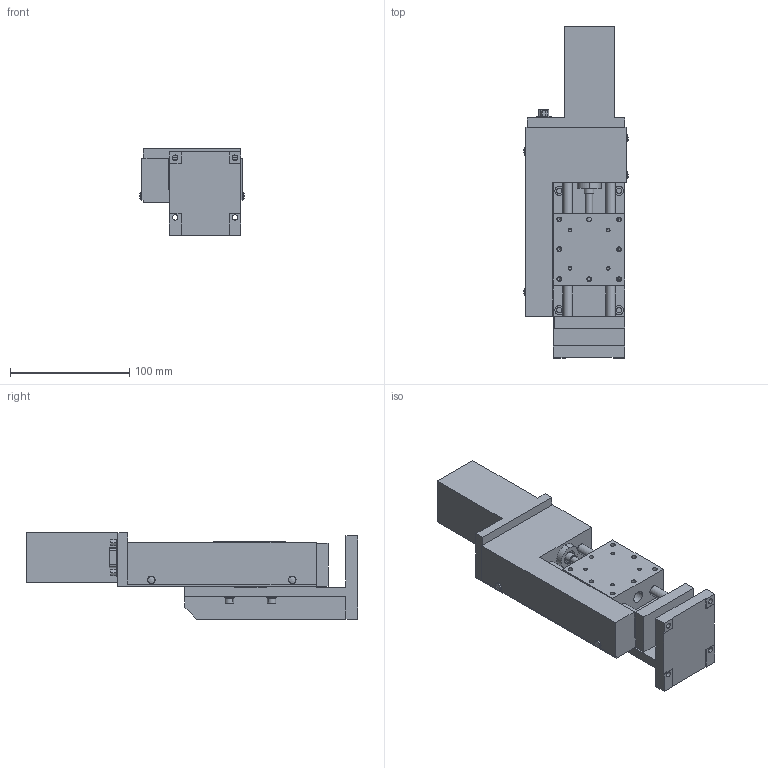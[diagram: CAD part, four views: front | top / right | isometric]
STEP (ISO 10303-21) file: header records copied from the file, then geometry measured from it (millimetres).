
FILE_DESCRIPTION (( 'STEP AP203' ), '1' );
FILE_NAME ('ALZ-604-E1P.STEP', '2008-03-11T09:26:54', ( '' ), ( '' ), 'SwSTEP 2.0', 'SolidWorks 2007', '' );
FILE_SCHEMA (( 'CONFIG_CONTROL_DESIGN' ));
Length unit declared in the file: millimetre
Products named in the file (3): ALZ-604-E1P-2_蹬怮椔; ALZ-604-E1P-1_蹬怮椔; ALZ-604-E1P
Assembly tree (2 placements, depth 2):
  ALZ-604-E1P
    ALZ-604-E1P-1_蹬怮椔
    ALZ-604-E1P-2_蹬怮椔
Bounding box: 87.65 x 278 x 72.5 mm (x, y, z)
Volume: 710148.1 mm3; surface area: 130492.9 mm2
Topology: 2 solids, 7 shells, 404 faces, 974 edges, 639 vertices
Faces by surface type: cylinder 191, plane 189, cone 20, bspline 4
Entity records: 13269 total; most frequent: CARTESIAN_POINT 3234, DIRECTION 2090, ORIENTED_EDGE 1924, EDGE_CURVE 962, AXIS2_PLACEMENT_3D 765, VERTEX_POINT 639, VECTOR 560, LINE 560
